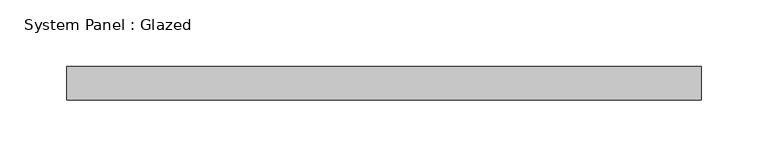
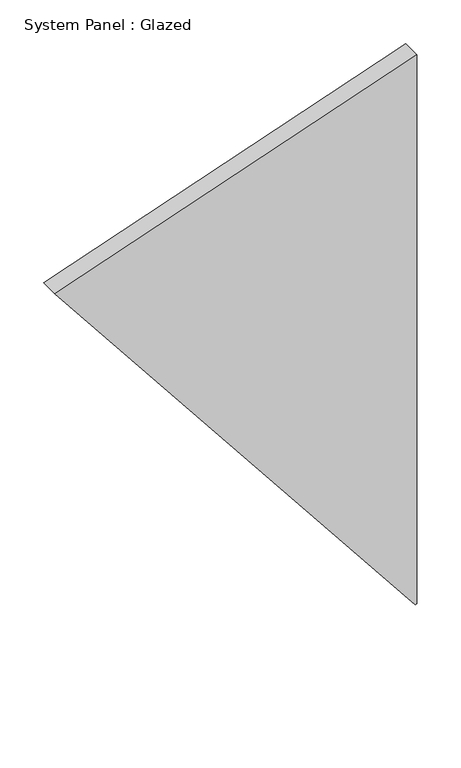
"""IFC4 building model written with IfcOpenShell, lengths in millimetres: plate geometry, System Panel : Glazed."""

import ifcopenshell
import ifcopenshell.guid

model = None  # the IFC model being written
_history = None  # IfcOwnerHistory: only IFC2X3 demands one
_inside = {}  # id of a spatial element -> (the spatial element, [elements in it])
_under = {}  # id of a project, library or spatial element -> (it, [spatial elements below it])
_declared = {}  # id of a project -> (the project, [libraries it declares])
_typed = {}  # id of a type object -> (the type object, [elements of that type])
_made_of = {}  # id of a material, layer set ... -> (it, [elements and type objects made of it])


def new_model(schema):
    """Start an empty IFC model of exactly this schema.

    Asked for "IFC4X3", IfcOpenShell would pick the latest addendum, in which some entities
    have other attributes; the version numbers below select the first issue.
    IFC2X3 requires an IfcOwnerHistory on every rooted entity: one is made here for all.
    """
    global model, _history
    if schema == "IFC4X3":
        model = ifcopenshell.file(schema_version=(4, 3, 0, 0))
    else:
        model = ifcopenshell.file(schema=schema)
    _inside.clear()
    _under.clear()
    _declared.clear()
    _typed.clear()
    _made_of.clear()
    _history = None
    if model.schema == "IFC2X3":
        org = make("IfcOrganization", Name="unknown")
        user = make(
            "IfcPersonAndOrganization",
            ThePerson=make("IfcPerson", FamilyName="unknown"),
            TheOrganization=org,
        )
        app = make(
            "IfcApplication",
            ApplicationDeveloper=org,
            Version="unknown",
            ApplicationFullName="unknown",
            ApplicationIdentifier="unknown",
        )
        _history = make(
            "IfcOwnerHistory",
            OwningUser=user,
            OwningApplication=app,
            ChangeAction="ADDED",
            CreationDate=0,
        )
    return model


def make(cls, **values):
    """One entity of the class cls with the attributes given. An attribute that is None is left unset."""
    return model.create_entity(
        cls, **{name: value for name, value in values.items() if value is not None}
    )


def rooted(cls, **values):
    """An entity with a GlobalId (a new one), such as an element, a storey or a relation."""
    return make(cls, GlobalId=ifcopenshell.guid.new(), OwnerHistory=_history, **values)


def si_unit(unit_type, name, prefix=None):
    """IfcSIUnit, for example si_unit("LENGTHUNIT", "METRE", prefix="MILLI")."""
    return make("IfcSIUnit", UnitType=unit_type, Prefix=prefix, Name=name)


def assignment(units):
    """IfcUnitAssignment: the units of a project."""
    return None if units is None else make("IfcUnitAssignment", Units=units)


def point(xyz):
    """IfcCartesianPoint."""
    return None if xyz is None else make("IfcCartesianPoint", Coordinates=xyz)


def direction(xyz):
    """IfcDirection."""
    return None if xyz is None else make("IfcDirection", DirectionRatios=xyz)


def frame(location, z_axis=None, x_axis=None):
    """IfcAxis2Placement3D, a coordinate frame: its origin and axes. An axis left out is left unset."""
    return make(
        "IfcAxis2Placement3D",
        Location=point(location),
        Axis=direction(z_axis),
        RefDirection=direction(x_axis),
    )


def origin():
    """The frame at (0, 0, 0) with its axes left unset."""
    return frame((0.0, 0.0, 0.0))


def place(relative_to, where):
    """IfcLocalPlacement: puts the frame where relative to a parent placement (None: the world)."""
    return make(
        "IfcLocalPlacement", PlacementRelTo=relative_to, RelativePlacement=where
    )


def context(
    kind, dimensions, precision=None, world=None, true_north=None, identifier=None
):
    """IfcGeometricRepresentationContext, for example the 3D "Model" context."""
    return make(
        "IfcGeometricRepresentationContext",
        ContextIdentifier=identifier,
        ContextType=kind,
        CoordinateSpaceDimension=dimensions,
        Precision=precision,
        WorldCoordinateSystem=world,
        TrueNorth=true_north,
    )


def project(units=None, contexts=None):
    """IfcProject with its units and contexts."""
    return rooted(
        "IfcProject",
        Name="project",
        RepresentationContexts=contexts,
        UnitsInContext=assignment(units),
    )


def spatial(cls, under=None, at=None, **own):
    """A site, building, storey or space (cls), placed at a placement, below another one or the project."""
    s = rooted(cls, ObjectPlacement=at, **own)
    if under is not None:
        _under.setdefault(under.id(), (under, []))[1].append(s)
    return s


def polyline(points):
    """IfcPolyline through the points."""
    return make("IfcPolyline", Points=[point(p) for p in points])


def outline(outer, holes=None, kind="AREA"):
    """IfcArbitraryClosedProfileDef: a profile drawn as a closed curve; with holes, ...WithVoids."""
    if holes is None:
        return make("IfcArbitraryClosedProfileDef", ProfileType=kind, OuterCurve=outer)
    return make(
        "IfcArbitraryProfileDefWithVoids",
        ProfileType=kind,
        OuterCurve=outer,
        InnerCurves=holes,
    )


def extrude(swept, where, along, depth):
    """IfcExtrudedAreaSolid: the profile swept, set in the frame where, extruded along a direction by depth."""
    return make(
        "IfcExtrudedAreaSolid",
        SweptArea=swept,
        Position=where,
        ExtrudedDirection=direction(along),
        Depth=depth,
    )


def shape(context_of_items, identifier, shape_type, items):
    """IfcShapeRepresentation: the items that make up one representation, for example the "Body"."""
    return make(
        "IfcShapeRepresentation",
        ContextOfItems=context_of_items,
        RepresentationIdentifier=identifier,
        RepresentationType=shape_type,
        Items=items,
    )


def source(mapping_origin, context_of_items, identifier, shape_type, items):
    """IfcRepresentationMap: a shape defined once, which mapped items show again and again."""
    return make(
        "IfcRepresentationMap",
        MappingOrigin=mapping_origin,
        MappedRepresentation=shape(context_of_items, identifier, shape_type, items),
    )


def transform(
    local_origin,
    x_axis=None,
    y_axis=None,
    z_axis=None,
    scale=None,
    scale2=None,
    scale3=None,
    uniform=True,
):
    """IfcCartesianTransformationOperator3D, or its non-uniform kind. x_axis, y_axis, z_axis: its Axis1, 2, 3."""
    if uniform:
        return make(
            "IfcCartesianTransformationOperator3D",
            Axis1=direction(x_axis),
            Axis2=direction(y_axis),
            LocalOrigin=point(local_origin),
            Scale=scale,
            Axis3=direction(z_axis),
        )
    return make(
        "IfcCartesianTransformationOperator3DnonUniform",
        Axis1=direction(x_axis),
        Axis2=direction(y_axis),
        LocalOrigin=point(local_origin),
        Scale=scale,
        Axis3=direction(z_axis),
        Scale2=scale2,
        Scale3=scale3,
    )


def mapped(mapping_source, mapping_target):
    """IfcMappedItem: shows the shape of a source again, moved by a transform."""
    return make(
        "IfcMappedItem", MappingSource=mapping_source, MappingTarget=mapping_target
    )


def made_of(thing, what):
    """Note that an element or type object is made of a material, layer set ...; save() writes the relation."""
    if what is not None:
        _made_of.setdefault(what.id(), (what, []))[1].append(thing)
    return thing


def element(
    cls,
    number,
    at=None,
    inside=None,
    cuts=None,
    type_object=None,
    material=None,
    context=None,
    identifier="Body",
    shape_type=None,
    held_by="IfcProductDefinitionShape",
    body=None,
    shapes=None,
    **own,
):
    """One element of the class cls, such as IfcWall. Its Tag is "e" and its number.

    at: its placement. inside: the storey or other place that contains it. cuts: it is an
    opening in that element (IfcRelVoidsElement). A single representation is given by context,
    identifier, shape_type and body (its items); several are given by shapes. held_by: the class
    of the entity that holds the representations. save() writes the other relations.
    """
    e = rooted(cls, Tag="e%d" % number, ObjectPlacement=at, **own)
    if body is not None:
        shapes = [shape(context, identifier, shape_type, body)]
    if shapes is not None:
        e.Representation = make(held_by, Representations=shapes)
    if inside is not None:
        _inside.setdefault(inside.id(), (inside, []))[1].append(e)
    if cuts is not None:
        rooted(
            "IfcRelVoidsElement", RelatingBuildingElement=cuts, RelatedOpeningElement=e
        )
    if type_object is not None:
        _typed.setdefault(type_object.id(), (type_object, []))[1].append(e)
    return made_of(e, material)


def aggregate(whole, parts):
    """IfcRelAggregates: a whole, such as a stair, and the parts it consists of."""
    return rooted("IfcRelAggregates", RelatingObject=whole, RelatedObjects=parts)


def save(model, path):
    """Write the relations noted so far, then the file.

    IfcRelAggregates (storeys below a building ...), IfcRelContainedInSpatialStructure (elements
    in a storey), IfcRelDefinesByType, IfcRelAssociatesMaterial and IfcRelDeclares: one each for
    every whole, place, type object, material and project.
    """
    for whole, parts in _under.values():
        aggregate(whole, parts)
    for where, things in _inside.values():
        rooted(
            "IfcRelContainedInSpatialStructure",
            RelatedElements=things,
            RelatingStructure=where,
        )
    for kind, things in _typed.values():
        rooted("IfcRelDefinesByType", RelatedObjects=things, RelatingType=kind)
    for what, things in _made_of.values():
        rooted("IfcRelAssociatesMaterial", RelatedObjects=things, RelatingMaterial=what)
    for by, libraries in _declared.values():
        rooted("IfcRelDeclares", RelatingContext=by, RelatedDefinitions=libraries)
    model.write(path)


def system_panel_glazed_73a6ee59(model_context):
    return source(origin(), model_context, "Body", "SweptSolid", [
        extrude(outline(polyline([(0.0, 236.0989329), (0.5512144, 237.6820289), (763.3943351, 237.6758315), (597.8806127, -237.6820289), (0.0, 236.0989329)])), frame((0.0, -49.5, 0.0), z_axis=(0.0, 1.0, 0.0), x_axis=(0.0, 0.0, 1.0)), (0.0, 0.0, 1.0), 25.0),
    ])


if __name__ == "__main__":
    model = new_model("IFC4")
    model_context = context("Model", 3, world=origin())
    ifc_project = project(units=[si_unit("LENGTHUNIT", "METRE", prefix="MILLI")], contexts=[model_context])
    site = spatial("IfcSite", under=ifc_project)
    building = spatial("IfcBuilding", under=site)
    placement = place(None, origin())
    system_panel_glazed_shape = system_panel_glazed_73a6ee59(model_context)
    element("IfcPlate", 1, ObjectType="System Panel : Glazed", at=placement, inside=building, context=model_context, shape_type="MappedRepresentation", body=[
        mapped(system_panel_glazed_shape, transform((0.0, 0.0, 0.0), x_axis=(1.0, 0.0, 0.0), y_axis=(0.0, 1.0, 0.0), z_axis=(0.0, 0.0, 1.0))),
    ])
    save(model, "model.ifc")
